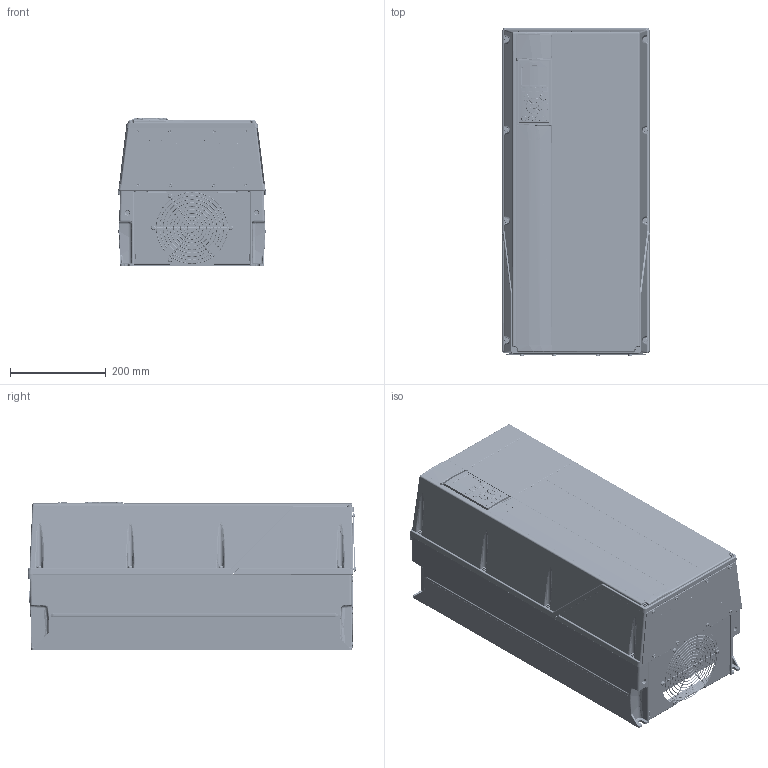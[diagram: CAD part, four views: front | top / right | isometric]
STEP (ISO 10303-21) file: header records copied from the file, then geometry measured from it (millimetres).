
FILE_DESCRIPTION((''),'2;1');
FILE_NAME('DANFOSS-FC200-C1-018','2007-11-29T',('Naushad.pm'),('dan Drives A/S'),'PRO/ENGINEER BY PARAMETRIC TECHNOLOGY CORPORATION, 2007160','PRO/ENGINEER BY PARAMETRIC TECHNOLOGY CORPORATION, 2007160','');
FILE_SCHEMA(('CONFIG_CONTROL_DESIGN', 'GEOMETRIC_VALIDATION_PROPERTIES_MIM'));
Products named in the file (1): DANFOSS-FC200-C1-018
Bounding box: 307.5 x 685.39 x 310.48 mm (x, y, z)
Volume: 47427375.4 mm3; surface area: 3543852.6 mm2
Topology: 47 solids, 47 shells, 7638 faces, 19367 edges, 11830 vertices
Faces by surface type: cylinder 2441, plane 2370, bspline 1791, torus 519, cone 353, extrusion 84, sphere 80
Entity records: 533593 total; most frequent: CARTESIAN_POINT 277132, ORIENTED_EDGE 38564, DIRECTION 29753, PRESENTATION_STYLE_ASSIGNMENT 22274, STYLED_ITEM 19329, CURVE_STYLE 19282, EDGE_CURVE 19282, VERTEX_POINT 11829
